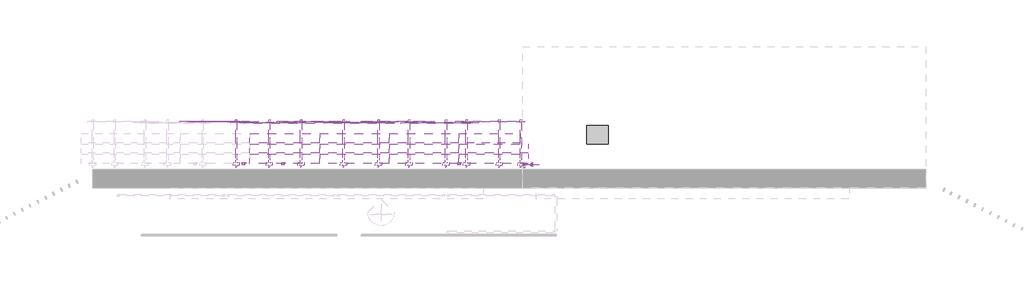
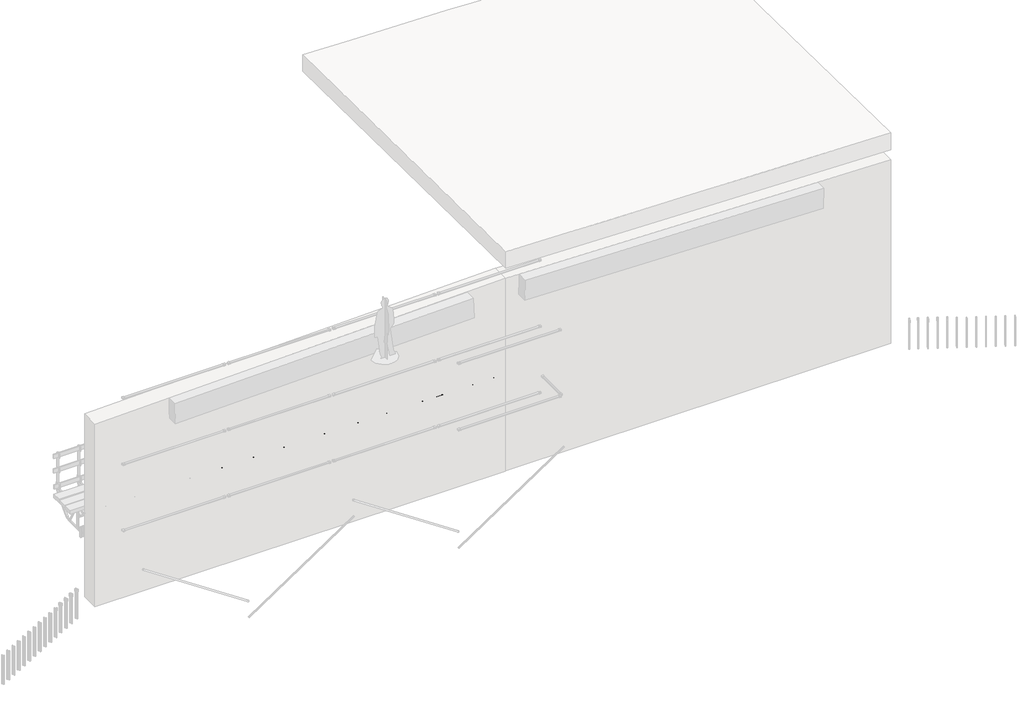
# One storey, part 3 of 7: 135 proxies.
"""IFC4 building model written with IfcOpenShell, lengths in millimetres."""

from ifc_helpers import new_model, si_unit, origin, place, context, project, spatial, transform, mapped, element, save
from components import generic_models_e9040c9c, proxy_023640_023640_3e30b286, proxy_023680_023680_f2ad0c72, proxy_030370_030370_bbd11c5f, proxy_070711_0f77f756, proxy_070711_070711_7d9b2813, proxy_070711_070711_45b70f32, proxy_070711_070711_53d268a1, proxy_070711_070711_dce7310f

model = new_model("IFC4")

# Units and contexts
model_context = context("Model", 3, world=origin())
ifc_project = project(units=[si_unit("LENGTHUNIT", "METRE", prefix="MILLI")], contexts=[model_context])

# Site, building, storey
site = spatial("IfcSite", under=ifc_project)
building = spatial("IfcBuilding", under=site)
storey = spatial("IfcBuildingStorey", under=building, Name="Niveau bas piédroits", Elevation=1000.0)

# Proxies
placement = place(None, origin())
generic_models_shape = generic_models_e9040c9c(model_context)
element("IfcBuildingElementProxy", 1, Name="Bouchon de sécurité vertical : Bouchon de sécurité vertical", ObjectType="Bouchon de sécurité vertical : Bouchon de sécurité vertical", at=placement, inside=storey, context=model_context, shape_type="MappedRepresentation", body=[
    mapped(generic_models_shape, transform((4237.0314234, -4304.6217934, 1708.9775513), x_axis=(1.0, 0.0, 0.0), y_axis=(0.0, 1.0, 0.0), z_axis=(0.0, 0.0, 1.0))),
])
element("IfcBuildingElementProxy", 2, Name="Bouchon de sécurité vertical : Bouchon de sécurité vertical", ObjectType="Bouchon de sécurité vertical : Bouchon de sécurité vertical", at=placement, inside=storey, context=model_context, shape_type="MappedRepresentation", body=[
    mapped(generic_models_shape, transform((3997.0314234, -4304.6217934, 1708.9775513), x_axis=(1.0, 0.0, 0.0), y_axis=(0.0, 1.0, 0.0), z_axis=(0.0, 0.0, 1.0))),
])
element("IfcBuildingElementProxy", 3, Name="Bouchon de sécurité vertical : Bouchon de sécurité vertical", ObjectType="Bouchon de sécurité vertical : Bouchon de sécurité vertical", at=placement, inside=storey, context=model_context, shape_type="MappedRepresentation", body=[
    mapped(generic_models_shape, transform((3757.0314234, -4304.6217934, 1708.9775513), x_axis=(1.0, 0.0, 0.0), y_axis=(0.0, 1.0, 0.0), z_axis=(0.0, 0.0, 1.0))),
])
element("IfcBuildingElementProxy", 4, Name="Bouchon de sécurité vertical : Bouchon de sécurité vertical", ObjectType="Bouchon de sécurité vertical : Bouchon de sécurité vertical", at=placement, inside=storey, context=model_context, shape_type="MappedRepresentation", body=[
    mapped(generic_models_shape, transform((3517.0314234, -4304.6217934, 1708.9775513), x_axis=(1.0, 0.0, 0.0), y_axis=(0.0, 1.0, 0.0), z_axis=(0.0, 0.0, 1.0))),
])
element("IfcBuildingElementProxy", 5, Name="Bouchon de sécurité vertical : Bouchon de sécurité vertical", ObjectType="Bouchon de sécurité vertical : Bouchon de sécurité vertical", at=placement, inside=storey, context=model_context, shape_type="MappedRepresentation", body=[
    mapped(generic_models_shape, transform((3277.0314234, -4304.6217934, 1708.9775513), x_axis=(1.0, 0.0, 0.0), y_axis=(0.0, 1.0, 0.0), z_axis=(0.0, 0.0, 1.0))),
])
element("IfcBuildingElementProxy", 6, Name="Bouchon de sécurité vertical : Bouchon de sécurité vertical", ObjectType="Bouchon de sécurité vertical : Bouchon de sécurité vertical", at=placement, inside=storey, context=model_context, shape_type="MappedRepresentation", body=[
    mapped(generic_models_shape, transform((3037.0314234, -4304.6217934, 1708.9775513), x_axis=(1.0, 0.0, 0.0), y_axis=(0.0, 1.0, 0.0), z_axis=(0.0, 0.0, 1.0))),
])
element("IfcBuildingElementProxy", 7, Name="Bouchon de sécurité vertical : Bouchon de sécurité vertical", ObjectType="Bouchon de sécurité vertical : Bouchon de sécurité vertical", at=placement, inside=storey, context=model_context, shape_type="MappedRepresentation", body=[
    mapped(generic_models_shape, transform((2797.0314234, -4304.6217934, 1708.9775513), x_axis=(1.0, 0.0, 0.0), y_axis=(0.0, 1.0, 0.0), z_axis=(0.0, 0.0, 1.0))),
])
element("IfcBuildingElementProxy", 8, Name="Bouchon de sécurité vertical : Bouchon de sécurité vertical", ObjectType="Bouchon de sécurité vertical : Bouchon de sécurité vertical", at=placement, inside=storey, context=model_context, shape_type="MappedRepresentation", body=[
    mapped(generic_models_shape, transform((2557.0314234, -4304.6217934, 1708.9775513), x_axis=(1.0, 0.0, 0.0), y_axis=(0.0, 1.0, 0.0), z_axis=(0.0, 0.0, 1.0))),
])
element("IfcBuildingElementProxy", 9, Name="Bouchon de sécurité vertical : Bouchon de sécurité vertical", ObjectType="Bouchon de sécurité vertical : Bouchon de sécurité vertical", at=placement, inside=storey, context=model_context, shape_type="MappedRepresentation", body=[
    mapped(generic_models_shape, transform((2317.0314234, -4304.6217934, 1708.9775513), x_axis=(1.0, 0.0, 0.0), y_axis=(0.0, 1.0, 0.0), z_axis=(0.0, 0.0, 1.0))),
])
element("IfcBuildingElementProxy", 10, Name="Bouchon de sécurité vertical : Bouchon de sécurité vertical", ObjectType="Bouchon de sécurité vertical : Bouchon de sécurité vertical", at=placement, inside=storey, context=model_context, shape_type="MappedRepresentation", body=[
    mapped(generic_models_shape, transform((2077.0314234, -4304.6217934, 1708.9775513), x_axis=(1.0, 0.0, 0.0), y_axis=(0.0, 1.0, 0.0), z_axis=(0.0, 0.0, 1.0))),
])
element("IfcBuildingElementProxy", 11, Name="Bouchon de sécurité vertical : Bouchon de sécurité vertical", ObjectType="Bouchon de sécurité vertical : Bouchon de sécurité vertical", at=placement, inside=storey, context=model_context, shape_type="MappedRepresentation", body=[
    mapped(generic_models_shape, transform((1837.0314234, -4304.6217934, 1708.9775513), x_axis=(1.0, 0.0, 0.0), y_axis=(0.0, 1.0, 0.0), z_axis=(0.0, 0.0, 1.0))),
])
element("IfcBuildingElementProxy", 12, Name="Bouchon de sécurité vertical : Bouchon de sécurité vertical", ObjectType="Bouchon de sécurité vertical : Bouchon de sécurité vertical", at=placement, inside=storey, context=model_context, shape_type="MappedRepresentation", body=[
    mapped(generic_models_shape, transform((1597.0314234, -4304.6217934, 1708.9775513), x_axis=(1.0, 0.0, 0.0), y_axis=(0.0, 1.0, 0.0), z_axis=(0.0, 0.0, 1.0))),
])
element("IfcBuildingElementProxy", 13, Name="Bouchon de sécurité vertical : Bouchon de sécurité vertical", ObjectType="Bouchon de sécurité vertical : Bouchon de sécurité vertical", at=placement, inside=storey, context=model_context, shape_type="MappedRepresentation", body=[
    mapped(generic_models_shape, transform((1377.0314234, -4304.6217934, 1708.9775513), x_axis=(1.0, 0.0, 0.0), y_axis=(0.0, 1.0, 0.0), z_axis=(0.0, 0.0, 1.0))),
])
element("IfcBuildingElementProxy", 14, Name="Bouchon de sécurité vertical : Bouchon de sécurité vertical", ObjectType="Bouchon de sécurité vertical : Bouchon de sécurité vertical", at=placement, inside=storey, context=model_context, shape_type="MappedRepresentation", body=[
    mapped(generic_models_shape, transform((4477.0314234, -4304.6217934, 1708.9775513), x_axis=(1.0, 0.0, 0.0), y_axis=(0.0, 1.0, 0.0), z_axis=(0.0, 0.0, 1.0))),
])
element("IfcBuildingElementProxy", 15, Name="Bouchon de sécurité vertical : Bouchon de sécurité vertical", ObjectType="Bouchon de sécurité vertical : Bouchon de sécurité vertical", at=placement, inside=storey, context=model_context, shape_type="MappedRepresentation", body=[
    mapped(generic_models_shape, transform((4717.0314234, -4304.6217934, 1708.9775513), x_axis=(1.0, 0.0, 0.0), y_axis=(0.0, 1.0, 0.0), z_axis=(0.0, 0.0, 1.0))),
])
element("IfcBuildingElementProxy", 16, Name="Bouchon de sécurité vertical : Bouchon de sécurité vertical", ObjectType="Bouchon de sécurité vertical : Bouchon de sécurité vertical", at=placement, inside=storey, context=model_context, shape_type="MappedRepresentation", body=[
    mapped(generic_models_shape, transform((6197.1173484, -4304.6217934, 1708.9775513), x_axis=(1.0, 0.0, 0.0), y_axis=(0.0, 1.0, 0.0), z_axis=(0.0, 0.0, 1.0))),
])
element("IfcBuildingElementProxy", 17, Name="Bouchon de sécurité vertical : Bouchon de sécurité vertical", ObjectType="Bouchon de sécurité vertical : Bouchon de sécurité vertical", at=placement, inside=storey, context=model_context, shape_type="MappedRepresentation", body=[
    mapped(generic_models_shape, transform((5917.0314234, -4304.6217934, 1708.9775513), x_axis=(1.0, 0.0, 0.0), y_axis=(0.0, 1.0, 0.0), z_axis=(0.0, 0.0, 1.0))),
])
element("IfcBuildingElementProxy", 18, Name="Bouchon de sécurité vertical : Bouchon de sécurité vertical", ObjectType="Bouchon de sécurité vertical : Bouchon de sécurité vertical", at=placement, inside=storey, context=model_context, shape_type="MappedRepresentation", body=[
    mapped(generic_models_shape, transform((5677.0314234, -4304.6217934, 1708.9775513), x_axis=(1.0, 0.0, 0.0), y_axis=(0.0, 1.0, 0.0), z_axis=(0.0, 0.0, 1.0))),
])
element("IfcBuildingElementProxy", 19, Name="Bouchon de sécurité vertical : Bouchon de sécurité vertical", ObjectType="Bouchon de sécurité vertical : Bouchon de sécurité vertical", at=placement, inside=storey, context=model_context, shape_type="MappedRepresentation", body=[
    mapped(generic_models_shape, transform((5437.0314234, -4304.6217934, 1708.9775513), x_axis=(1.0, 0.0, 0.0), y_axis=(0.0, 1.0, 0.0), z_axis=(0.0, 0.0, 1.0))),
])
element("IfcBuildingElementProxy", 20, Name="Bouchon de sécurité vertical : Bouchon de sécurité vertical", ObjectType="Bouchon de sécurité vertical : Bouchon de sécurité vertical", at=placement, inside=storey, context=model_context, shape_type="MappedRepresentation", body=[
    mapped(generic_models_shape, transform((5197.0314234, -4304.6217934, 1708.9775513), x_axis=(1.0, 0.0, 0.0), y_axis=(0.0, 1.0, 0.0), z_axis=(0.0, 0.0, 1.0))),
])
element("IfcBuildingElementProxy", 21, Name="Bouchon de sécurité vertical : Bouchon de sécurité vertical", ObjectType="Bouchon de sécurité vertical : Bouchon de sécurité vertical", at=placement, inside=storey, context=model_context, shape_type="MappedRepresentation", body=[
    mapped(generic_models_shape, transform((4957.0314234, -4304.6217934, 1708.9775513), x_axis=(1.0, 0.0, 0.0), y_axis=(0.0, 1.0, 0.0), z_axis=(0.0, 0.0, 1.0))),
])
element("IfcBuildingElementProxy", 22, Name="Bouchon de sécurité vertical : Bouchon de sécurité vertical", ObjectType="Bouchon de sécurité vertical : Bouchon de sécurité vertical", at=placement, inside=storey, context=model_context, shape_type="MappedRepresentation", body=[
    mapped(generic_models_shape, transform((6417.0314234, -4304.6217934, 1708.9775513), x_axis=(1.0, 0.0, 0.0), y_axis=(0.0, 1.0, 0.0), z_axis=(0.0, 0.0, 1.0))),
])
element("IfcBuildingElementProxy", 23, Name="Bouchon de sécurité vertical : Bouchon de sécurité vertical", ObjectType="Bouchon de sécurité vertical : Bouchon de sécurité vertical", at=placement, inside=storey, context=model_context, shape_type="MappedRepresentation", body=[
    mapped(generic_models_shape, transform((6657.0314234, -4304.6217934, 1708.9775513), x_axis=(1.0, 0.0, 0.0), y_axis=(0.0, 1.0, 0.0), z_axis=(0.0, 0.0, 1.0))),
])
element("IfcBuildingElementProxy", 24, Name="Bouchon de sécurité vertical : Bouchon de sécurité vertical", ObjectType="Bouchon de sécurité vertical : Bouchon de sécurité vertical", at=placement, inside=storey, context=model_context, shape_type="MappedRepresentation", body=[
    mapped(generic_models_shape, transform((8817.0314234, -4304.6217934, 1708.9775513), x_axis=(1.0, 0.0, 0.0), y_axis=(0.0, 1.0, 0.0), z_axis=(0.0, 0.0, 1.0))),
])
element("IfcBuildingElementProxy", 25, Name="Bouchon de sécurité vertical : Bouchon de sécurité vertical", ObjectType="Bouchon de sécurité vertical : Bouchon de sécurité vertical", at=placement, inside=storey, context=model_context, shape_type="MappedRepresentation", body=[
    mapped(generic_models_shape, transform((8577.0314234, -4304.6217934, 1708.9775513), x_axis=(1.0, 0.0, 0.0), y_axis=(0.0, 1.0, 0.0), z_axis=(0.0, 0.0, 1.0))),
])
element("IfcBuildingElementProxy", 26, Name="Bouchon de sécurité vertical : Bouchon de sécurité vertical", ObjectType="Bouchon de sécurité vertical : Bouchon de sécurité vertical", at=placement, inside=storey, context=model_context, shape_type="MappedRepresentation", body=[
    mapped(generic_models_shape, transform((8337.0314234, -4304.6217934, 1708.9775513), x_axis=(1.0, 0.0, 0.0), y_axis=(0.0, 1.0, 0.0), z_axis=(0.0, 0.0, 1.0))),
])
element("IfcBuildingElementProxy", 27, Name="Bouchon de sécurité vertical : Bouchon de sécurité vertical", ObjectType="Bouchon de sécurité vertical : Bouchon de sécurité vertical", at=placement, inside=storey, context=model_context, shape_type="MappedRepresentation", body=[
    mapped(generic_models_shape, transform((6897.0314234, -4304.6217934, 1708.9775513), x_axis=(1.0, 0.0, 0.0), y_axis=(0.0, 1.0, 0.0), z_axis=(0.0, 0.0, 1.0))),
])
element("IfcBuildingElementProxy", 28, Name="Bouchon de sécurité vertical : Bouchon de sécurité vertical", ObjectType="Bouchon de sécurité vertical : Bouchon de sécurité vertical", at=placement, inside=storey, context=model_context, shape_type="MappedRepresentation", body=[
    mapped(generic_models_shape, transform((7137.0314234, -4304.6217934, 1708.9775513), x_axis=(1.0, 0.0, 0.0), y_axis=(0.0, 1.0, 0.0), z_axis=(0.0, 0.0, 1.0))),
])
element("IfcBuildingElementProxy", 29, Name="Bouchon de sécurité vertical : Bouchon de sécurité vertical", ObjectType="Bouchon de sécurité vertical : Bouchon de sécurité vertical", at=placement, inside=storey, context=model_context, shape_type="MappedRepresentation", body=[
    mapped(generic_models_shape, transform((7377.0314234, -4304.6217934, 1708.9775513), x_axis=(1.0, 0.0, 0.0), y_axis=(0.0, 1.0, 0.0), z_axis=(0.0, 0.0, 1.0))),
])
element("IfcBuildingElementProxy", 30, Name="Bouchon de sécurité vertical : Bouchon de sécurité vertical", ObjectType="Bouchon de sécurité vertical : Bouchon de sécurité vertical", at=placement, inside=storey, context=model_context, shape_type="MappedRepresentation", body=[
    mapped(generic_models_shape, transform((7617.0314234, -4304.6217934, 1708.9775513), x_axis=(1.0, 0.0, 0.0), y_axis=(0.0, 1.0, 0.0), z_axis=(0.0, 0.0, 1.0))),
])
element("IfcBuildingElementProxy", 31, Name="Bouchon de sécurité vertical : Bouchon de sécurité vertical", ObjectType="Bouchon de sécurité vertical : Bouchon de sécurité vertical", at=placement, inside=storey, context=model_context, shape_type="MappedRepresentation", body=[
    mapped(generic_models_shape, transform((7856.4932038, -4304.6217934, 1708.9775513), x_axis=(1.0, 0.0, 0.0), y_axis=(0.0, 1.0, 0.0), z_axis=(0.0, 0.0, 1.0))),
])
element("IfcBuildingElementProxy", 32, Name="Bouchon de sécurité vertical : Bouchon de sécurité vertical", ObjectType="Bouchon de sécurité vertical : Bouchon de sécurité vertical", at=placement, inside=storey, context=model_context, shape_type="MappedRepresentation", body=[
    mapped(generic_models_shape, transform((8096.4932038, -4304.6217934, 1708.9775513), x_axis=(1.0, 0.0, 0.0), y_axis=(0.0, 1.0, 0.0), z_axis=(0.0, 0.0, 1.0))),
])
element("IfcBuildingElementProxy", 33, Name="Bouchon de sécurité vertical : Bouchon de sécurité vertical", ObjectType="Bouchon de sécurité vertical : Bouchon de sécurité vertical", at=placement, inside=storey, context=model_context, shape_type="MappedRepresentation", body=[
    mapped(generic_models_shape, transform((4237.0314234, -4024.6217934, 1708.9775513), x_axis=(1.0, 0.0, 0.0), y_axis=(0.0, 1.0, 0.0), z_axis=(0.0, 0.0, 1.0))),
])
element("IfcBuildingElementProxy", 34, Name="Bouchon de sécurité vertical : Bouchon de sécurité vertical", ObjectType="Bouchon de sécurité vertical : Bouchon de sécurité vertical", at=placement, inside=storey, context=model_context, shape_type="MappedRepresentation", body=[
    mapped(generic_models_shape, transform((3997.0314234, -4024.6217934, 1708.9775513), x_axis=(1.0, 0.0, 0.0), y_axis=(0.0, 1.0, 0.0), z_axis=(0.0, 0.0, 1.0))),
])
element("IfcBuildingElementProxy", 35, Name="Bouchon de sécurité vertical : Bouchon de sécurité vertical", ObjectType="Bouchon de sécurité vertical : Bouchon de sécurité vertical", at=placement, inside=storey, context=model_context, shape_type="MappedRepresentation", body=[
    mapped(generic_models_shape, transform((3757.0314234, -4024.6217934, 1708.9775513), x_axis=(1.0, 0.0, 0.0), y_axis=(0.0, 1.0, 0.0), z_axis=(0.0, 0.0, 1.0))),
])
element("IfcBuildingElementProxy", 36, Name="Bouchon de sécurité vertical : Bouchon de sécurité vertical", ObjectType="Bouchon de sécurité vertical : Bouchon de sécurité vertical", at=placement, inside=storey, context=model_context, shape_type="MappedRepresentation", body=[
    mapped(generic_models_shape, transform((3517.0314234, -4024.6217934, 1708.9775513), x_axis=(1.0, 0.0, 0.0), y_axis=(0.0, 1.0, 0.0), z_axis=(0.0, 0.0, 1.0))),
])
element("IfcBuildingElementProxy", 37, Name="Bouchon de sécurité vertical : Bouchon de sécurité vertical", ObjectType="Bouchon de sécurité vertical : Bouchon de sécurité vertical", at=placement, inside=storey, context=model_context, shape_type="MappedRepresentation", body=[
    mapped(generic_models_shape, transform((3277.0314234, -4024.6217934, 1708.9775513), x_axis=(1.0, 0.0, 0.0), y_axis=(0.0, 1.0, 0.0), z_axis=(0.0, 0.0, 1.0))),
])
element("IfcBuildingElementProxy", 38, Name="Bouchon de sécurité vertical : Bouchon de sécurité vertical", ObjectType="Bouchon de sécurité vertical : Bouchon de sécurité vertical", at=placement, inside=storey, context=model_context, shape_type="MappedRepresentation", body=[
    mapped(generic_models_shape, transform((3037.0314234, -4024.6217934, 1708.9775513), x_axis=(1.0, 0.0, 0.0), y_axis=(0.0, 1.0, 0.0), z_axis=(0.0, 0.0, 1.0))),
])
element("IfcBuildingElementProxy", 39, Name="Bouchon de sécurité vertical : Bouchon de sécurité vertical", ObjectType="Bouchon de sécurité vertical : Bouchon de sécurité vertical", at=placement, inside=storey, context=model_context, shape_type="MappedRepresentation", body=[
    mapped(generic_models_shape, transform((2797.0314234, -4024.6217934, 1708.9775513), x_axis=(1.0, 0.0, 0.0), y_axis=(0.0, 1.0, 0.0), z_axis=(0.0, 0.0, 1.0))),
])
element("IfcBuildingElementProxy", 40, Name="Bouchon de sécurité vertical : Bouchon de sécurité vertical", ObjectType="Bouchon de sécurité vertical : Bouchon de sécurité vertical", at=placement, inside=storey, context=model_context, shape_type="MappedRepresentation", body=[
    mapped(generic_models_shape, transform((2557.0314234, -4024.6217934, 1708.9775513), x_axis=(1.0, 0.0, 0.0), y_axis=(0.0, 1.0, 0.0), z_axis=(0.0, 0.0, 1.0))),
])
element("IfcBuildingElementProxy", 41, Name="Bouchon de sécurité vertical : Bouchon de sécurité vertical", ObjectType="Bouchon de sécurité vertical : Bouchon de sécurité vertical", at=placement, inside=storey, context=model_context, shape_type="MappedRepresentation", body=[
    mapped(generic_models_shape, transform((2317.0314234, -4024.6217934, 1708.9775513), x_axis=(1.0, 0.0, 0.0), y_axis=(0.0, 1.0, 0.0), z_axis=(0.0, 0.0, 1.0))),
])
element("IfcBuildingElementProxy", 42, Name="Bouchon de sécurité vertical : Bouchon de sécurité vertical", ObjectType="Bouchon de sécurité vertical : Bouchon de sécurité vertical", at=placement, inside=storey, context=model_context, shape_type="MappedRepresentation", body=[
    mapped(generic_models_shape, transform((2077.0314234, -4024.6217934, 1708.9775513), x_axis=(1.0, 0.0, 0.0), y_axis=(0.0, 1.0, 0.0), z_axis=(0.0, 0.0, 1.0))),
])
element("IfcBuildingElementProxy", 43, Name="Bouchon de sécurité vertical : Bouchon de sécurité vertical", ObjectType="Bouchon de sécurité vertical : Bouchon de sécurité vertical", at=placement, inside=storey, context=model_context, shape_type="MappedRepresentation", body=[
    mapped(generic_models_shape, transform((1837.0314234, -4024.6217934, 1708.9775513), x_axis=(1.0, 0.0, 0.0), y_axis=(0.0, 1.0, 0.0), z_axis=(0.0, 0.0, 1.0))),
])
element("IfcBuildingElementProxy", 44, Name="Bouchon de sécurité vertical : Bouchon de sécurité vertical", ObjectType="Bouchon de sécurité vertical : Bouchon de sécurité vertical", at=placement, inside=storey, context=model_context, shape_type="MappedRepresentation", body=[
    mapped(generic_models_shape, transform((1597.0314234, -4024.6217934, 1708.9775513), x_axis=(1.0, 0.0, 0.0), y_axis=(0.0, 1.0, 0.0), z_axis=(0.0, 0.0, 1.0))),
])
element("IfcBuildingElementProxy", 45, Name="Bouchon de sécurité vertical : Bouchon de sécurité vertical", ObjectType="Bouchon de sécurité vertical : Bouchon de sécurité vertical", at=placement, inside=storey, context=model_context, shape_type="MappedRepresentation", body=[
    mapped(generic_models_shape, transform((1377.0314234, -4024.6217934, 1708.9775513), x_axis=(1.0, 0.0, 0.0), y_axis=(0.0, 1.0, 0.0), z_axis=(0.0, 0.0, 1.0))),
])
element("IfcBuildingElementProxy", 46, Name="Bouchon de sécurité vertical : Bouchon de sécurité vertical", ObjectType="Bouchon de sécurité vertical : Bouchon de sécurité vertical", at=placement, inside=storey, context=model_context, shape_type="MappedRepresentation", body=[
    mapped(generic_models_shape, transform((4477.0314234, -4024.6217934, 1708.9775513), x_axis=(1.0, 0.0, 0.0), y_axis=(0.0, 1.0, 0.0), z_axis=(0.0, 0.0, 1.0))),
])
element("IfcBuildingElementProxy", 47, Name="Bouchon de sécurité vertical : Bouchon de sécurité vertical", ObjectType="Bouchon de sécurité vertical : Bouchon de sécurité vertical", at=placement, inside=storey, context=model_context, shape_type="MappedRepresentation", body=[
    mapped(generic_models_shape, transform((4717.0314234, -4024.6217934, 1708.9775513), x_axis=(1.0, 0.0, 0.0), y_axis=(0.0, 1.0, 0.0), z_axis=(0.0, 0.0, 1.0))),
])
element("IfcBuildingElementProxy", 48, Name="Bouchon de sécurité vertical : Bouchon de sécurité vertical", ObjectType="Bouchon de sécurité vertical : Bouchon de sécurité vertical", at=placement, inside=storey, context=model_context, shape_type="MappedRepresentation", body=[
    mapped(generic_models_shape, transform((6197.1173484, -4024.6217934, 1708.9775513), x_axis=(1.0, 0.0, 0.0), y_axis=(0.0, 1.0, 0.0), z_axis=(0.0, 0.0, 1.0))),
])
element("IfcBuildingElementProxy", 49, Name="Bouchon de sécurité vertical : Bouchon de sécurité vertical", ObjectType="Bouchon de sécurité vertical : Bouchon de sécurité vertical", at=placement, inside=storey, context=model_context, shape_type="MappedRepresentation", body=[
    mapped(generic_models_shape, transform((5917.0314234, -4024.6217934, 1708.9775513), x_axis=(1.0, 0.0, 0.0), y_axis=(0.0, 1.0, 0.0), z_axis=(0.0, 0.0, 1.0))),
])
element("IfcBuildingElementProxy", 50, Name="Bouchon de sécurité vertical : Bouchon de sécurité vertical", ObjectType="Bouchon de sécurité vertical : Bouchon de sécurité vertical", at=placement, inside=storey, context=model_context, shape_type="MappedRepresentation", body=[
    mapped(generic_models_shape, transform((5677.0314234, -4024.6217934, 1708.9775513), x_axis=(1.0, 0.0, 0.0), y_axis=(0.0, 1.0, 0.0), z_axis=(0.0, 0.0, 1.0))),
])
element("IfcBuildingElementProxy", 51, Name="Bouchon de sécurité vertical : Bouchon de sécurité vertical", ObjectType="Bouchon de sécurité vertical : Bouchon de sécurité vertical", at=placement, inside=storey, context=model_context, shape_type="MappedRepresentation", body=[
    mapped(generic_models_shape, transform((5437.0314234, -4024.6217934, 1708.9775513), x_axis=(1.0, 0.0, 0.0), y_axis=(0.0, 1.0, 0.0), z_axis=(0.0, 0.0, 1.0))),
])
element("IfcBuildingElementProxy", 52, Name="Bouchon de sécurité vertical : Bouchon de sécurité vertical", ObjectType="Bouchon de sécurité vertical : Bouchon de sécurité vertical", at=placement, inside=storey, context=model_context, shape_type="MappedRepresentation", body=[
    mapped(generic_models_shape, transform((5197.0314234, -4024.6217934, 1708.9775513), x_axis=(1.0, 0.0, 0.0), y_axis=(0.0, 1.0, 0.0), z_axis=(0.0, 0.0, 1.0))),
])
element("IfcBuildingElementProxy", 53, Name="Bouchon de sécurité vertical : Bouchon de sécurité vertical", ObjectType="Bouchon de sécurité vertical : Bouchon de sécurité vertical", at=placement, inside=storey, context=model_context, shape_type="MappedRepresentation", body=[
    mapped(generic_models_shape, transform((4957.0314234, -4024.6217934, 1708.9775513), x_axis=(1.0, 0.0, 0.0), y_axis=(0.0, 1.0, 0.0), z_axis=(0.0, 0.0, 1.0))),
])
element("IfcBuildingElementProxy", 54, Name="Bouchon de sécurité vertical : Bouchon de sécurité vertical", ObjectType="Bouchon de sécurité vertical : Bouchon de sécurité vertical", at=placement, inside=storey, context=model_context, shape_type="MappedRepresentation", body=[
    mapped(generic_models_shape, transform((6417.0314234, -4024.6217934, 1708.9775513), x_axis=(1.0, 0.0, 0.0), y_axis=(0.0, 1.0, 0.0), z_axis=(0.0, 0.0, 1.0))),
])
element("IfcBuildingElementProxy", 55, Name="Bouchon de sécurité vertical : Bouchon de sécurité vertical", ObjectType="Bouchon de sécurité vertical : Bouchon de sécurité vertical", at=placement, inside=storey, context=model_context, shape_type="MappedRepresentation", body=[
    mapped(generic_models_shape, transform((6657.0314234, -4024.6217934, 1708.9775513), x_axis=(1.0, 0.0, 0.0), y_axis=(0.0, 1.0, 0.0), z_axis=(0.0, 0.0, 1.0))),
])
element("IfcBuildingElementProxy", 56, Name="Bouchon de sécurité vertical : Bouchon de sécurité vertical", ObjectType="Bouchon de sécurité vertical : Bouchon de sécurité vertical", at=placement, inside=storey, context=model_context, shape_type="MappedRepresentation", body=[
    mapped(generic_models_shape, transform((8817.0314234, -4024.6217934, 1708.9775513), x_axis=(1.0, 0.0, 0.0), y_axis=(0.0, 1.0, 0.0), z_axis=(0.0, 0.0, 1.0))),
])
element("IfcBuildingElementProxy", 57, Name="Bouchon de sécurité vertical : Bouchon de sécurité vertical", ObjectType="Bouchon de sécurité vertical : Bouchon de sécurité vertical", at=placement, inside=storey, context=model_context, shape_type="MappedRepresentation", body=[
    mapped(generic_models_shape, transform((8577.0314234, -4024.6217934, 1708.9775513), x_axis=(1.0, 0.0, 0.0), y_axis=(0.0, 1.0, 0.0), z_axis=(0.0, 0.0, 1.0))),
])
element("IfcBuildingElementProxy", 58, Name="Bouchon de sécurité vertical : Bouchon de sécurité vertical", ObjectType="Bouchon de sécurité vertical : Bouchon de sécurité vertical", at=placement, inside=storey, context=model_context, shape_type="MappedRepresentation", body=[
    mapped(generic_models_shape, transform((6897.0314234, -4024.6217934, 1708.9775513), x_axis=(1.0, 0.0, 0.0), y_axis=(0.0, 1.0, 0.0), z_axis=(0.0, 0.0, 1.0))),
])
element("IfcBuildingElementProxy", 59, Name="Bouchon de sécurité vertical : Bouchon de sécurité vertical", ObjectType="Bouchon de sécurité vertical : Bouchon de sécurité vertical", at=placement, inside=storey, context=model_context, shape_type="MappedRepresentation", body=[
    mapped(generic_models_shape, transform((7137.0314234, -4024.6217934, 1708.9775513), x_axis=(1.0, 0.0, 0.0), y_axis=(0.0, 1.0, 0.0), z_axis=(0.0, 0.0, 1.0))),
])
element("IfcBuildingElementProxy", 60, Name="Bouchon de sécurité vertical : Bouchon de sécurité vertical", ObjectType="Bouchon de sécurité vertical : Bouchon de sécurité vertical", at=placement, inside=storey, context=model_context, shape_type="MappedRepresentation", body=[
    mapped(generic_models_shape, transform((7377.0314234, -4024.6217934, 1708.9775513), x_axis=(1.0, 0.0, 0.0), y_axis=(0.0, 1.0, 0.0), z_axis=(0.0, 0.0, 1.0))),
])
element("IfcBuildingElementProxy", 61, Name="Bouchon de sécurité vertical : Bouchon de sécurité vertical", ObjectType="Bouchon de sécurité vertical : Bouchon de sécurité vertical", at=placement, inside=storey, context=model_context, shape_type="MappedRepresentation", body=[
    mapped(generic_models_shape, transform((7617.0314234, -4024.6217934, 1708.9775513), x_axis=(1.0, 0.0, 0.0), y_axis=(0.0, 1.0, 0.0), z_axis=(0.0, 0.0, 1.0))),
])
element("IfcBuildingElementProxy", 62, Name="Bouchon de sécurité vertical : Bouchon de sécurité vertical", ObjectType="Bouchon de sécurité vertical : Bouchon de sécurité vertical", at=placement, inside=storey, context=model_context, shape_type="MappedRepresentation", body=[
    mapped(generic_models_shape, transform((7856.4932038, -4024.6217934, 1708.9775513), x_axis=(1.0, 0.0, 0.0), y_axis=(0.0, 1.0, 0.0), z_axis=(0.0, 0.0, 1.0))),
])
element("IfcBuildingElementProxy", 63, Name="Bouchon de sécurité vertical : Bouchon de sécurité vertical", ObjectType="Bouchon de sécurité vertical : Bouchon de sécurité vertical", at=placement, inside=storey, context=model_context, shape_type="MappedRepresentation", body=[
    mapped(generic_models_shape, transform((-2162.9685766, -4304.6217934, 1708.9775513), x_axis=(1.0, 0.0, 0.0), y_axis=(0.0, 1.0, 0.0), z_axis=(0.0, 0.0, 1.0))),
])
element("IfcBuildingElementProxy", 64, Name="Bouchon de sécurité vertical : Bouchon de sécurité vertical", ObjectType="Bouchon de sécurité vertical : Bouchon de sécurité vertical", at=placement, inside=storey, context=model_context, shape_type="MappedRepresentation", body=[
    mapped(generic_models_shape, transform((-2402.9685766, -4304.6217934, 1708.9775513), x_axis=(1.0, 0.0, 0.0), y_axis=(0.0, 1.0, 0.0), z_axis=(0.0, 0.0, 1.0))),
])
element("IfcBuildingElementProxy", 65, Name="Bouchon de sécurité vertical : Bouchon de sécurité vertical", ObjectType="Bouchon de sécurité vertical : Bouchon de sécurité vertical", at=placement, inside=storey, context=model_context, shape_type="MappedRepresentation", body=[
    mapped(generic_models_shape, transform((-2642.9685766, -4304.6217934, 1708.9775513), x_axis=(1.0, 0.0, 0.0), y_axis=(0.0, 1.0, 0.0), z_axis=(0.0, 0.0, 1.0))),
])
element("IfcBuildingElementProxy", 66, Name="Bouchon de sécurité vertical : Bouchon de sécurité vertical", ObjectType="Bouchon de sécurité vertical : Bouchon de sécurité vertical", at=placement, inside=storey, context=model_context, shape_type="MappedRepresentation", body=[
    mapped(generic_models_shape, transform((-2882.9685766, -4304.6217934, 1708.9775513), x_axis=(1.0, 0.0, 0.0), y_axis=(0.0, 1.0, 0.0), z_axis=(0.0, 0.0, 1.0))),
])
element("IfcBuildingElementProxy", 67, Name="Bouchon de sécurité vertical : Bouchon de sécurité vertical", ObjectType="Bouchon de sécurité vertical : Bouchon de sécurité vertical", at=placement, inside=storey, context=model_context, shape_type="MappedRepresentation", body=[
    mapped(generic_models_shape, transform((-3362.9685766, -4304.6217934, 1708.9775513), x_axis=(1.0, 0.0, 0.0), y_axis=(0.0, 1.0, 0.0), z_axis=(0.0, 0.0, 1.0))),
])
element("IfcBuildingElementProxy", 68, Name="Bouchon de sécurité vertical : Bouchon de sécurité vertical", ObjectType="Bouchon de sécurité vertical : Bouchon de sécurité vertical", at=placement, inside=storey, context=model_context, shape_type="MappedRepresentation", body=[
    mapped(generic_models_shape, transform((-1922.9685766, -4304.6217934, 1708.9775513), x_axis=(1.0, 0.0, 0.0), y_axis=(0.0, 1.0, 0.0), z_axis=(0.0, 0.0, 1.0))),
])
element("IfcBuildingElementProxy", 69, Name="Bouchon de sécurité vertical : Bouchon de sécurité vertical", ObjectType="Bouchon de sécurité vertical : Bouchon de sécurité vertical", at=placement, inside=storey, context=model_context, shape_type="MappedRepresentation", body=[
    mapped(generic_models_shape, transform((-1682.9685766, -4304.6217934, 1708.9775513), x_axis=(1.0, 0.0, 0.0), y_axis=(0.0, 1.0, 0.0), z_axis=(0.0, 0.0, 1.0))),
])
element("IfcBuildingElementProxy", 70, Name="Bouchon de sécurité vertical : Bouchon de sécurité vertical", ObjectType="Bouchon de sécurité vertical : Bouchon de sécurité vertical", at=placement, inside=storey, context=model_context, shape_type="MappedRepresentation", body=[
    mapped(generic_models_shape, transform((-3843.5067962, -4304.6217934, 1708.9775513), x_axis=(1.0, 0.0, 0.0), y_axis=(0.0, 1.0, 0.0), z_axis=(0.0, 0.0, 1.0))),
])
element("IfcBuildingElementProxy", 71, Name="Bouchon de sécurité vertical : Bouchon de sécurité vertical", ObjectType="Bouchon de sécurité vertical : Bouchon de sécurité vertical", at=placement, inside=storey, context=model_context, shape_type="MappedRepresentation", body=[
    mapped(generic_models_shape, transform((-3603.5067962, -4304.6217934, 1708.9775513), x_axis=(1.0, 0.0, 0.0), y_axis=(0.0, 1.0, 0.0), z_axis=(0.0, 0.0, 1.0))),
])
element("IfcBuildingElementProxy", 72, Name="Bouchon de sécurité vertical : Bouchon de sécurité vertical", ObjectType="Bouchon de sécurité vertical : Bouchon de sécurité vertical", at=placement, inside=storey, context=model_context, shape_type="MappedRepresentation", body=[
    mapped(generic_models_shape, transform((-1442.9685766, -4304.6217934, 1708.9775513), x_axis=(1.0, 0.0, 0.0), y_axis=(0.0, 1.0, 0.0), z_axis=(0.0, 0.0, 1.0))),
])
element("IfcBuildingElementProxy", 73, Name="Bouchon de sécurité vertical : Bouchon de sécurité vertical", ObjectType="Bouchon de sécurité vertical : Bouchon de sécurité vertical", at=placement, inside=storey, context=model_context, shape_type="MappedRepresentation", body=[
    mapped(generic_models_shape, transform((-1202.9685766, -4304.6217934, 1708.9775513), x_axis=(1.0, 0.0, 0.0), y_axis=(0.0, 1.0, 0.0), z_axis=(0.0, 0.0, 1.0))),
])
element("IfcBuildingElementProxy", 74, Name="Bouchon de sécurité vertical : Bouchon de sécurité vertical", ObjectType="Bouchon de sécurité vertical : Bouchon de sécurité vertical", at=placement, inside=storey, context=model_context, shape_type="MappedRepresentation", body=[
    mapped(generic_models_shape, transform((-962.9685766, -4304.6217934, 1708.9775513), x_axis=(1.0, 0.0, 0.0), y_axis=(0.0, 1.0, 0.0), z_axis=(0.0, 0.0, 1.0))),
])
element("IfcBuildingElementProxy", 75, Name="Bouchon de sécurité vertical : Bouchon de sécurité vertical", ObjectType="Bouchon de sécurité vertical : Bouchon de sécurité vertical", at=placement, inside=storey, context=model_context, shape_type="MappedRepresentation", body=[
    mapped(generic_models_shape, transform((-2162.9685766, -4024.6217934, 1708.9775513), x_axis=(1.0, 0.0, 0.0), y_axis=(0.0, 1.0, 0.0), z_axis=(0.0, 0.0, 1.0))),
])
element("IfcBuildingElementProxy", 76, Name="Bouchon de sécurité vertical : Bouchon de sécurité vertical", ObjectType="Bouchon de sécurité vertical : Bouchon de sécurité vertical", at=placement, inside=storey, context=model_context, shape_type="MappedRepresentation", body=[
    mapped(generic_models_shape, transform((-2402.9685766, -4024.6217934, 1708.9775513), x_axis=(1.0, 0.0, 0.0), y_axis=(0.0, 1.0, 0.0), z_axis=(0.0, 0.0, 1.0))),
])
element("IfcBuildingElementProxy", 77, Name="Bouchon de sécurité vertical : Bouchon de sécurité vertical", ObjectType="Bouchon de sécurité vertical : Bouchon de sécurité vertical", at=placement, inside=storey, context=model_context, shape_type="MappedRepresentation", body=[
    mapped(generic_models_shape, transform((-2642.9685766, -4024.6217934, 1708.9775513), x_axis=(1.0, 0.0, 0.0), y_axis=(0.0, 1.0, 0.0), z_axis=(0.0, 0.0, 1.0))),
])
element("IfcBuildingElementProxy", 78, Name="Bouchon de sécurité vertical : Bouchon de sécurité vertical", ObjectType="Bouchon de sécurité vertical : Bouchon de sécurité vertical", at=placement, inside=storey, context=model_context, shape_type="MappedRepresentation", body=[
    mapped(generic_models_shape, transform((-2882.9685766, -4024.6217934, 1708.9775513), x_axis=(1.0, 0.0, 0.0), y_axis=(0.0, 1.0, 0.0), z_axis=(0.0, 0.0, 1.0))),
])
element("IfcBuildingElementProxy", 79, Name="Bouchon de sécurité vertical : Bouchon de sécurité vertical", ObjectType="Bouchon de sécurité vertical : Bouchon de sécurité vertical", at=placement, inside=storey, context=model_context, shape_type="MappedRepresentation", body=[
    mapped(generic_models_shape, transform((-3122.9685766, -4024.6217934, 1708.9775513), x_axis=(1.0, 0.0, 0.0), y_axis=(0.0, 1.0, 0.0), z_axis=(0.0, 0.0, 1.0))),
])
element("IfcBuildingElementProxy", 80, Name="Bouchon de sécurité vertical : Bouchon de sécurité vertical", ObjectType="Bouchon de sécurité vertical : Bouchon de sécurité vertical", at=placement, inside=storey, context=model_context, shape_type="MappedRepresentation", body=[
    mapped(generic_models_shape, transform((-3362.9685766, -4024.6217934, 1708.9775513), x_axis=(1.0, 0.0, 0.0), y_axis=(0.0, 1.0, 0.0), z_axis=(0.0, 0.0, 1.0))),
])
element("IfcBuildingElementProxy", 81, Name="Bouchon de sécurité vertical : Bouchon de sécurité vertical", ObjectType="Bouchon de sécurité vertical : Bouchon de sécurité vertical", at=placement, inside=storey, context=model_context, shape_type="MappedRepresentation", body=[
    mapped(generic_models_shape, transform((-1922.9685766, -4024.6217934, 1708.9775513), x_axis=(1.0, 0.0, 0.0), y_axis=(0.0, 1.0, 0.0), z_axis=(0.0, 0.0, 1.0))),
])
element("IfcBuildingElementProxy", 82, Name="Bouchon de sécurité vertical : Bouchon de sécurité vertical", ObjectType="Bouchon de sécurité vertical : Bouchon de sécurité vertical", at=placement, inside=storey, context=model_context, shape_type="MappedRepresentation", body=[
    mapped(generic_models_shape, transform((-1682.9685766, -4024.6217934, 1708.9775513), x_axis=(1.0, 0.0, 0.0), y_axis=(0.0, 1.0, 0.0), z_axis=(0.0, 0.0, 1.0))),
])
element("IfcBuildingElementProxy", 83, Name="Bouchon de sécurité vertical : Bouchon de sécurité vertical", ObjectType="Bouchon de sécurité vertical : Bouchon de sécurité vertical", at=placement, inside=storey, context=model_context, shape_type="MappedRepresentation", body=[
    mapped(generic_models_shape, transform((-3843.5067962, -4024.6217934, 1708.9775513), x_axis=(1.0, 0.0, 0.0), y_axis=(0.0, 1.0, 0.0), z_axis=(0.0, 0.0, 1.0))),
])
element("IfcBuildingElementProxy", 84, Name="Bouchon de sécurité vertical : Bouchon de sécurité vertical", ObjectType="Bouchon de sécurité vertical : Bouchon de sécurité vertical", at=placement, inside=storey, context=model_context, shape_type="MappedRepresentation", body=[
    mapped(generic_models_shape, transform((-3603.5067962, -4024.6217934, 1708.9775513), x_axis=(1.0, 0.0, 0.0), y_axis=(0.0, 1.0, 0.0), z_axis=(0.0, 0.0, 1.0))),
])
element("IfcBuildingElementProxy", 85, Name="Bouchon de sécurité vertical : Bouchon de sécurité vertical", ObjectType="Bouchon de sécurité vertical : Bouchon de sécurité vertical", at=placement, inside=storey, context=model_context, shape_type="MappedRepresentation", body=[
    mapped(generic_models_shape, transform((-1442.9685766, -4024.6217934, 1708.9775513), x_axis=(1.0, 0.0, 0.0), y_axis=(0.0, 1.0, 0.0), z_axis=(0.0, 0.0, 1.0))),
])
element("IfcBuildingElementProxy", 86, Name="Bouchon de sécurité vertical : Bouchon de sécurité vertical", ObjectType="Bouchon de sécurité vertical : Bouchon de sécurité vertical", at=placement, inside=storey, context=model_context, shape_type="MappedRepresentation", body=[
    mapped(generic_models_shape, transform((-1202.9685766, -4024.6217934, 1708.9775513), x_axis=(1.0, 0.0, 0.0), y_axis=(0.0, 1.0, 0.0), z_axis=(0.0, 0.0, 1.0))),
])
element("IfcBuildingElementProxy", 87, Name="Bouchon de sécurité vertical : Bouchon de sécurité vertical", ObjectType="Bouchon de sécurité vertical : Bouchon de sécurité vertical", at=placement, inside=storey, context=model_context, shape_type="MappedRepresentation", body=[
    mapped(generic_models_shape, transform((-962.9685766, -4024.6217934, 1708.9775513), x_axis=(1.0, 0.0, 0.0), y_axis=(0.0, 1.0, 0.0), z_axis=(0.0, 0.0, 1.0))),
])
proxy_023640_023640_shape = proxy_023640_023640_3e30b286(model_context)
element("IfcBuildingElementProxy", 88, Name="023640 : 023640", ObjectType="023640 : 023640", at=placement, inside=storey, context=model_context, shape_type="MappedRepresentation", body=[
    mapped(proxy_023640_023640_shape, transform((84.4568403, -3879.9999928, 5621.3924713), x_axis=(0.0, 0.0, -1.0), y_axis=(-1.0, 0.0, 0.0), z_axis=(0.0, 1.0, 0.0))),
])
proxy_023680_023680_shape = proxy_023680_023680_f2ad0c72(model_context)
element("IfcBuildingElementProxy", 89, Name="023680 : 023680", ObjectType="023680 : 023680", at=placement, inside=storey, context=model_context, shape_type="MappedRepresentation", body=[
    mapped(proxy_023680_023680_shape, transform((-622.5431597, -3957.4999928, 3420.0), x_axis=(1.0, 0.0, 0.0), y_axis=(0.0, 1.0, 0.0), z_axis=(0.0, 0.0, 1.0))),
])
element("IfcBuildingElementProxy", 90, Name="023680 : 023680", ObjectType="023680 : 023680", at=placement, inside=storey, context=model_context, shape_type="MappedRepresentation", body=[
    mapped(proxy_023680_023680_shape, transform((-33.0431597, -3957.4999928, 3420.0), x_axis=(1.0, 0.0, 0.0), y_axis=(0.0, 1.0, 0.0), z_axis=(0.0, 0.0, 1.0))),
])
element("IfcBuildingElementProxy", 91, Name="023680 : 023680", ObjectType="023680 : 023680", at=placement, inside=storey, context=model_context, shape_type="MappedRepresentation", body=[
    mapped(proxy_023680_023680_shape, transform((-1512.5431597, -3957.4999928, 3420.0), x_axis=(1.0, 0.0, 0.0), y_axis=(0.0, 1.0, 0.0), z_axis=(0.0, 0.0, 1.0))),
])
element("IfcBuildingElementProxy", 92, Name="023680 : 023680", ObjectType="023680 : 023680", at=placement, inside=storey, context=model_context, shape_type="MappedRepresentation", body=[
    mapped(proxy_023680_023680_shape, transform((-2076.0431597, -3957.4999928, 3420.0), x_axis=(1.0, 0.0, 0.0), y_axis=(0.0, 1.0, 0.0), z_axis=(0.0, 0.0, 1.0))),
])
element("IfcBuildingElementProxy", 93, Name="023680 : 023680", ObjectType="023680 : 023680", at=placement, inside=storey, context=model_context, shape_type="MappedRepresentation", body=[
    mapped(proxy_023680_023680_shape, transform((-3912.5431597, -3957.4999928, 3420.0), x_axis=(1.0, 0.0, 0.0), y_axis=(0.0, 1.0, 0.0), z_axis=(0.0, 0.0, 1.0))),
])
element("IfcBuildingElementProxy", 94, Name="023680 : 023680", ObjectType="023680 : 023680", at=placement, inside=storey, context=model_context, shape_type="MappedRepresentation", body=[
    mapped(proxy_023680_023680_shape, transform((-3084.0431597, -3957.4999928, 3420.0), x_axis=(1.0, 0.0, 0.0), y_axis=(0.0, 1.0, 0.0), z_axis=(0.0, 0.0, 1.0))),
])
element("IfcBuildingElementProxy", 95, Name="023680 : 023680", ObjectType="023680 : 023680", at=placement, inside=storey, context=model_context, shape_type="MappedRepresentation", body=[
    mapped(proxy_023680_023680_shape, transform((-4868.5431597, -3957.4999928, 3420.0), x_axis=(1.0, 0.0, 0.0), y_axis=(0.0, 1.0, 0.0), z_axis=(0.0, 0.0, 1.0))),
])
element("IfcBuildingElementProxy", 96, Name="023680 : 023680", ObjectType="023680 : 023680", at=placement, inside=storey, context=model_context, shape_type="MappedRepresentation", body=[
    mapped(proxy_023680_023680_shape, transform((-6028.5431597, -3957.4999928, 3420.0), x_axis=(1.0, 0.0, 0.0), y_axis=(0.0, 1.0, 0.0), z_axis=(0.0, 0.0, 1.0))),
])
element("IfcBuildingElementProxy", 97, Name="023680 : 023680", ObjectType="023680 : 023680", at=placement, inside=storey, context=model_context, shape_type="MappedRepresentation", body=[
    mapped(proxy_023680_023680_shape, transform((-6893.5431597, -3957.4999928, 3420.0), x_axis=(1.0, 0.0, 0.0), y_axis=(0.0, 1.0, 0.0), z_axis=(0.0, 0.0, 1.0))),
])
element("IfcBuildingElementProxy", 98, Name="023680 : 023680", ObjectType="023680 : 023680", at=placement, inside=storey, context=model_context, shape_type="MappedRepresentation", body=[
    mapped(proxy_023680_023680_shape, transform((-7798.5431597, -3957.4999928, 3420.0), x_axis=(1.0, 0.0, 0.0), y_axis=(0.0, 1.0, 0.0), z_axis=(0.0, 0.0, 1.0))),
])
proxy_030370_030370_shape = proxy_030370_030370_bbd11c5f(model_context)
element("IfcBuildingElementProxy", 99, Name="030370 : 030370", ObjectType="030370 : 030370", at=placement, inside=storey, context=model_context, shape_type="MappedRepresentation", body=[
    mapped(proxy_030370_030370_shape, transform((-1715.5431597, -3879.9999928, 3100.0), x_axis=(-1.0, 0.0, 0.0), y_axis=(0.0, 0.0, 1.0), z_axis=(0.0, 1.0, 0.0))),
])
element("IfcBuildingElementProxy", 100, Name="030370 : 030370", ObjectType="030370 : 030370", at=placement, inside=storey, context=model_context, shape_type="MappedRepresentation", body=[
    mapped(proxy_030370_030370_shape, transform((-6515.5431597, -3879.9999928, 3100.0), x_axis=(-1.0, 0.0, 0.0), y_axis=(0.0, 0.0, 1.0), z_axis=(0.0, 1.0, 0.0))),
])
element("IfcBuildingElementProxy", 101, Name="030370 : 030370", ObjectType="030370 : 030370", at=placement, inside=storey, context=model_context, shape_type="MappedRepresentation", body=[
    mapped(proxy_030370_030370_shape, transform((-7595.5431597, -3879.9999928, 3100.0), x_axis=(-1.0, 0.0, 0.0), y_axis=(0.0, 0.0, 1.0), z_axis=(0.0, 1.0, 0.0))),
])
element("IfcBuildingElementProxy", 102, Name="030370 : 030370", ObjectType="030370 : 030370", at=placement, inside=storey, context=model_context, shape_type="MappedRepresentation", body=[
    mapped(proxy_030370_030370_shape, transform((224.5007275, -3864.8437428, 5619.8768463), x_axis=(0.0, 1.0, 0.0), y_axis=(0.0, 0.0, 1.0), z_axis=(1.0, 0.0, 0.0))),
])
proxy_070711_shape = proxy_070711_0f77f756(model_context)
element("IfcBuildingElementProxy", 103, Name="070711 : Cale de blocage pour échelle", ObjectType="070711 : Cale de blocage pour échelle", at=placement, inside=storey, context=model_context, shape_type="MappedRepresentation", body=[
    mapped(proxy_070711_shape, transform((2359.2602584, -2796.0118175, 500.0), x_axis=(-1.0, 0.0, 0.0), y_axis=(0.0, -1.0, 0.0), z_axis=(0.0, 0.0, 1.0))),
])
proxy_070711_070711_shape = proxy_070711_070711_7d9b2813(model_context)
element("IfcBuildingElementProxy", 104, Name="070711 : 070711", ObjectType="070711 : 070711", at=placement, inside=storey, context=model_context, shape_type="MappedRepresentation", body=[
    mapped(proxy_070711_070711_shape, transform((76.9568403, -2676.6799631, 3501.6006226), x_axis=(0.0, 0.0, 1.0), y_axis=(-1.0, 0.0, 0.0), z_axis=(0.0, -1.0, 0.0))),
])
element("IfcBuildingElementProxy", 105, Name="070711 : 070711", ObjectType="070711 : 070711", at=placement, inside=storey, context=model_context, shape_type="MappedRepresentation", body=[
    mapped(proxy_070711_070711_shape, transform((-2408.5431597, -2676.6799631, 3501.6006226), x_axis=(0.0, 0.0, 1.0), y_axis=(-1.0, 0.0, 0.0), z_axis=(0.0, -1.0, 0.0))),
])
element("IfcBuildingElementProxy", 106, Name="070711 : 070711", ObjectType="070711 : 070711", at=placement, inside=storey, context=model_context, shape_type="MappedRepresentation", body=[
    mapped(proxy_070711_070711_shape, transform((-4708.5431597, -2676.6799631, 3501.6006226), x_axis=(0.0, 0.0, 1.0), y_axis=(-1.0, 0.0, 0.0), z_axis=(0.0, -1.0, 0.0))),
])
element("IfcBuildingElementProxy", 107, Name="070711 : 070711", ObjectType="070711 : 070711", at=placement, inside=storey, context=model_context, shape_type="MappedRepresentation", body=[
    mapped(proxy_070711_070711_shape, transform((-7189.9419461, -2676.6799631, 3501.6006226), x_axis=(0.0, 0.0, 1.0), y_axis=(-1.0, 0.0, 0.0), z_axis=(0.0, -1.0, 0.0))),
])
element("IfcBuildingElementProxy", 108, Name="070711 : 070711", ObjectType="070711 : 070711", at=placement, inside=storey, context=model_context, shape_type="MappedRepresentation", body=[
    mapped(proxy_070711_070711_shape, transform((76.9568403, -2676.6799631, 3991.6006226), x_axis=(0.0, 0.0, 1.0), y_axis=(-1.0, 0.0, 0.0), z_axis=(0.0, -1.0, 0.0))),
])
element("IfcBuildingElementProxy", 109, Name="070711 : 070711", ObjectType="070711 : 070711", at=placement, inside=storey, context=model_context, shape_type="MappedRepresentation", body=[
    mapped(proxy_070711_070711_shape, transform((-2489.0431597, -2676.6799631, 3991.6006226), x_axis=(0.0, 0.0, 1.0), y_axis=(-1.0, 0.0, 0.0), z_axis=(0.0, -1.0, 0.0))),
])
element("IfcBuildingElementProxy", 110, Name="070711 : 070711", ObjectType="070711 : 070711", at=placement, inside=storey, context=model_context, shape_type="MappedRepresentation", body=[
    mapped(proxy_070711_070711_shape, transform((-4793.5431597, -2676.6799631, 3991.6006226), x_axis=(0.0, 0.0, 1.0), y_axis=(-1.0, 0.0, 0.0), z_axis=(0.0, -1.0, 0.0))),
])
element("IfcBuildingElementProxy", 111, Name="070711 : 070711", ObjectType="070711 : 070711", at=placement, inside=storey, context=model_context, shape_type="MappedRepresentation", body=[
    mapped(proxy_070711_070711_shape, transform((-7443.5431597, -2676.6799631, 3991.6006226), x_axis=(0.0, 0.0, 1.0), y_axis=(-1.0, 0.0, 0.0), z_axis=(0.0, -1.0, 0.0))),
])
element("IfcBuildingElementProxy", 112, Name="070711 : 070711", ObjectType="070711 : 070711", at=placement, inside=storey, context=model_context, shape_type="MappedRepresentation", body=[
    mapped(proxy_070711_070711_shape, transform((-3077.2864983, -2701.6799631, 4111.6006226), x_axis=(0.0, 0.0, -1.0), y_axis=(1.0, 0.0, 0.0), z_axis=(0.0, -1.0, 0.0))),
])
element("IfcBuildingElementProxy", 113, Name="070711 : 070711", ObjectType="070711 : 070711", at=placement, inside=storey, context=model_context, shape_type="MappedRepresentation", body=[
    mapped(proxy_070711_070711_shape, transform((-5381.7864983, -2701.6799631, 4111.6006226), x_axis=(0.0, 0.0, -1.0), y_axis=(1.0, 0.0, 0.0), z_axis=(0.0, -1.0, 0.0))),
])
element("IfcBuildingElementProxy", 114, Name="070711 : 070711", ObjectType="070711 : 070711", at=placement, inside=storey, context=model_context, shape_type="MappedRepresentation", body=[
    mapped(proxy_070711_070711_shape, transform((76.9568403, -2676.6799631, 4431.6006226), x_axis=(0.0, 0.0, 1.0), y_axis=(-1.0, 0.0, 0.0), z_axis=(0.0, -1.0, 0.0))),
])
element("IfcBuildingElementProxy", 115, Name="070711 : 070711", ObjectType="070711 : 070711", at=placement, inside=storey, context=model_context, shape_type="MappedRepresentation", body=[
    mapped(proxy_070711_070711_shape, transform((-3077.2864983, -2701.6799631, 4551.6006226), x_axis=(0.0, 0.0, -1.0), y_axis=(1.0, 0.0, 0.0), z_axis=(0.0, -1.0, 0.0))),
])
element("IfcBuildingElementProxy", 116, Name="070711 : 070711", ObjectType="070711 : 070711", at=placement, inside=storey, context=model_context, shape_type="MappedRepresentation", body=[
    mapped(proxy_070711_070711_shape, transform((-2489.0431597, -2676.6799631, 4431.6006226), x_axis=(0.0, 0.0, 1.0), y_axis=(-1.0, 0.0, 0.0), z_axis=(0.0, -1.0, 0.0))),
])
element("IfcBuildingElementProxy", 117, Name="070711 : 070711", ObjectType="070711 : 070711", at=placement, inside=storey, context=model_context, shape_type="MappedRepresentation", body=[
    mapped(proxy_070711_070711_shape, transform((-7443.5431597, -2676.6799631, 4431.6006226), x_axis=(0.0, 0.0, 1.0), y_axis=(-1.0, 0.0, 0.0), z_axis=(0.0, -1.0, 0.0))),
])
element("IfcBuildingElementProxy", 118, Name="070711 : 070711", ObjectType="070711 : 070711", at=placement, inside=storey, context=model_context, shape_type="MappedRepresentation", body=[
    mapped(proxy_070711_070711_shape, transform((-5643.2864983, -2701.6799631, 4551.6006226), x_axis=(0.0, 0.0, -1.0), y_axis=(1.0, 0.0, 0.0), z_axis=(0.0, -1.0, 0.0))),
])
element("IfcBuildingElementProxy", 119, Name="070711 : 070711", ObjectType="070711 : 070711", at=placement, inside=storey, context=model_context, shape_type="MappedRepresentation", body=[
    mapped(proxy_070711_070711_shape, transform((-7947.7864983, -2701.6799631, 4551.6006226), x_axis=(0.0, 0.0, -1.0), y_axis=(1.0, 0.0, 0.0), z_axis=(0.0, -1.0, 0.0))),
])
element("IfcBuildingElementProxy", 120, Name="070711 : 070711", ObjectType="070711 : 070711", at=placement, inside=storey, context=model_context, shape_type="MappedRepresentation", body=[
    mapped(proxy_070711_070711_shape, transform((76.9568403, -2676.6799631, 3501.6006226), x_axis=(0.0, 0.0, 1.0), y_axis=(-1.0, 0.0, 0.0), z_axis=(0.0, -1.0, 0.0))),
])
proxy_070711_070711_2_shape = proxy_070711_070711_45b70f32(model_context)
element("IfcBuildingElementProxy", 121, Name="070711 : 070711", ObjectType="070711 : 070711", at=placement, inside=storey, context=model_context, shape_type="MappedRepresentation", body=[
    mapped(proxy_070711_070711_2_shape, transform((-3303.0431597, -2710.1799631, 3501.6006226), x_axis=(0.0, -1.0, 0.0), y_axis=(1.0, 0.0, 0.0), z_axis=(0.0, 0.0, 1.0))),
])
element("IfcBuildingElementProxy", 122, Name="070711 : 070711", ObjectType="070711 : 070711", at=placement, inside=storey, context=model_context, shape_type="MappedRepresentation", body=[
    mapped(proxy_070711_070711_2_shape, transform((-5391.8844103, -2710.1799631, 3501.6006226), x_axis=(0.0, -1.0, 0.0), y_axis=(1.0, 0.0, 0.0), z_axis=(0.0, 0.0, 1.0))),
])
element("IfcBuildingElementProxy", 123, Name="070711 : 070711", ObjectType="070711 : 070711", at=placement, inside=storey, context=model_context, shape_type="MappedRepresentation", body=[
    mapped(proxy_070711_070711_2_shape, transform((-7558.5431597, -2710.1799631, 3501.6006226), x_axis=(0.0, -1.0, 0.0), y_axis=(1.0, 0.0, 0.0), z_axis=(0.0, 0.0, 1.0))),
])
proxy_070711_070711_3_shape = proxy_070711_070711_53d268a1(model_context)
element("IfcBuildingElementProxy", 124, Name="070711 : 070711", ObjectType="070711 : 070711", at=placement, inside=storey, context=model_context, shape_type="MappedRepresentation", body=[
    mapped(proxy_070711_070711_3_shape, transform((-1723.5431597, -3575.7938263, 3501.6006226), x_axis=(0.0, -1.0, 0.0), y_axis=(1.0, 0.0, 0.0), z_axis=(0.0, 0.0, 1.0))),
])
element("IfcBuildingElementProxy", 125, Name="070711 : 070711", ObjectType="070711 : 070711", at=placement, inside=storey, context=model_context, shape_type="MappedRepresentation", body=[
    mapped(proxy_070711_070711_3_shape, transform((-1723.5431597, -3295.7938263, 3501.6006226), x_axis=(0.0, -1.0, 0.0), y_axis=(1.0, 0.0, 0.0), z_axis=(0.0, 0.0, 1.0))),
])
element("IfcBuildingElementProxy", 126, Name="070711 : 070711", ObjectType="070711 : 070711", at=placement, inside=storey, context=model_context, shape_type="MappedRepresentation", body=[
    mapped(proxy_070711_070711_3_shape, transform((-3623.5431597, -3575.7938263, 3501.6006226), x_axis=(0.0, -1.0, 0.0), y_axis=(1.0, 0.0, 0.0), z_axis=(0.0, 0.0, 1.0))),
])
element("IfcBuildingElementProxy", 127, Name="070711 : 070711", ObjectType="070711 : 070711", at=placement, inside=storey, context=model_context, shape_type="MappedRepresentation", body=[
    mapped(proxy_070711_070711_3_shape, transform((-3623.5431597, -3295.7938263, 3501.6006226), x_axis=(0.0, -1.0, 0.0), y_axis=(1.0, 0.0, 0.0), z_axis=(0.0, 0.0, 1.0))),
])
element("IfcBuildingElementProxy", 128, Name="070711 : 070711", ObjectType="070711 : 070711", at=placement, inside=storey, context=model_context, shape_type="MappedRepresentation", body=[
    mapped(proxy_070711_070711_3_shape, transform((-3623.5431597, -3015.7938263, 3501.6006226), x_axis=(0.0, -1.0, 0.0), y_axis=(1.0, 0.0, 0.0), z_axis=(0.0, 0.0, 1.0))),
])
element("IfcBuildingElementProxy", 129, Name="070711 : 070711", ObjectType="070711 : 070711", at=placement, inside=storey, context=model_context, shape_type="MappedRepresentation", body=[
    mapped(proxy_070711_070711_3_shape, transform((-5523.5431597, -3575.7938263, 3501.6006226), x_axis=(0.0, -1.0, 0.0), y_axis=(1.0, 0.0, 0.0), z_axis=(0.0, 0.0, 1.0))),
])
element("IfcBuildingElementProxy", 130, Name="070711 : 070711", ObjectType="070711 : 070711", at=placement, inside=storey, context=model_context, shape_type="MappedRepresentation", body=[
    mapped(proxy_070711_070711_3_shape, transform((-5523.5431597, -3295.7938263, 3501.6006226), x_axis=(0.0, -1.0, 0.0), y_axis=(1.0, 0.0, 0.0), z_axis=(0.0, 0.0, 1.0))),
])
element("IfcBuildingElementProxy", 131, Name="070711 : 070711", ObjectType="070711 : 070711", at=placement, inside=storey, context=model_context, shape_type="MappedRepresentation", body=[
    mapped(proxy_070711_070711_3_shape, transform((-5523.5431597, -3015.7938263, 3501.6006226), x_axis=(0.0, -1.0, 0.0), y_axis=(1.0, 0.0, 0.0), z_axis=(0.0, 0.0, 1.0))),
])
element("IfcBuildingElementProxy", 132, Name="070711 : 070711", ObjectType="070711 : 070711", at=placement, inside=storey, context=model_context, shape_type="MappedRepresentation", body=[
    mapped(proxy_070711_070711_3_shape, transform((-7423.5431597, -3575.7938263, 3501.6006226), x_axis=(0.0, -1.0, 0.0), y_axis=(1.0, 0.0, 0.0), z_axis=(0.0, 0.0, 1.0))),
])
element("IfcBuildingElementProxy", 133, Name="070711 : 070711", ObjectType="070711 : 070711", at=placement, inside=storey, context=model_context, shape_type="MappedRepresentation", body=[
    mapped(proxy_070711_070711_3_shape, transform((-7423.5431597, -3295.7938263, 3501.6006226), x_axis=(0.0, -1.0, 0.0), y_axis=(1.0, 0.0, 0.0), z_axis=(0.0, 0.0, 1.0))),
])
element("IfcBuildingElementProxy", 134, Name="070711 : 070711", ObjectType="070711 : 070711", at=placement, inside=storey, context=model_context, shape_type="MappedRepresentation", body=[
    mapped(proxy_070711_070711_3_shape, transform((-7423.5431597, -3015.7938263, 3501.6006226), x_axis=(0.0, -1.0, 0.0), y_axis=(1.0, 0.0, 0.0), z_axis=(0.0, 0.0, 1.0))),
])
proxy_070711_070711_4_shape = proxy_070711_070711_dce7310f(model_context)
element("IfcBuildingElementProxy", 135, Name="070711 : 070711", ObjectType="070711 : 070711", at=placement, inside=storey, context=model_context, shape_type="MappedRepresentation", body=[
    mapped(proxy_070711_070711_4_shape, transform((-1723.5431597, -3015.7938263, 3501.6006226), x_axis=(0.0, -1.0, 0.0), y_axis=(1.0, 0.0, 0.0), z_axis=(0.0, 0.0, 1.0))),
])

save(model, "model.ifc")
